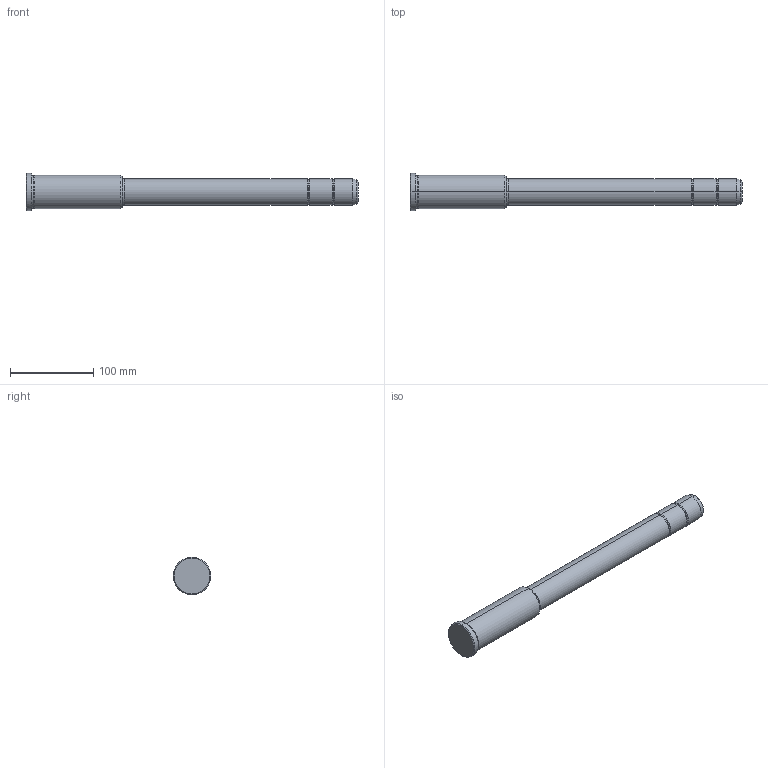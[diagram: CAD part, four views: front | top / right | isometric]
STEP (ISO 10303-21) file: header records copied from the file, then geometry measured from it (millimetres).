
FILE_DESCRIPTION(('CATIA V5 STEP Exchange'),'2;1');
FILE_NAME('C:\Users\Utente\Desktop\IO LAVORO\3D X SITO CF\X SITO\PLASTICA\351\351-32X116X400.stp','2021-09-15T11:50:07+00:00',('none'),('none'),'CATIA Version 5 Release 20 GA (IN-10)','CATIA V5 STEP AP203','none');
FILE_SCHEMA(('CONFIG_CONTROL_DESIGN'));
Length unit declared in the file: millimetre
Products named in the file (1): 351-32X116X400
Bounding box: 400 x 45 x 45 mm (x, y, z)
Volume: 375307.6 mm3; surface area: 45989.3 mm2
Topology: 1 solids, 1 shells, 36 faces, 102 edges, 70 vertices
Faces by surface type: torus 16, cylinder 10, cone 6, plane 4
Entity records: 1292 total; most frequent: CARTESIAN_POINT 321, ORIENTED_EDGE 204, DIRECTION 166, AXIS2_PLACEMENT_3D 115, EDGE_CURVE 102, CIRCLE 78, VERTEX_POINT 70, EDGE_LOOP 38
